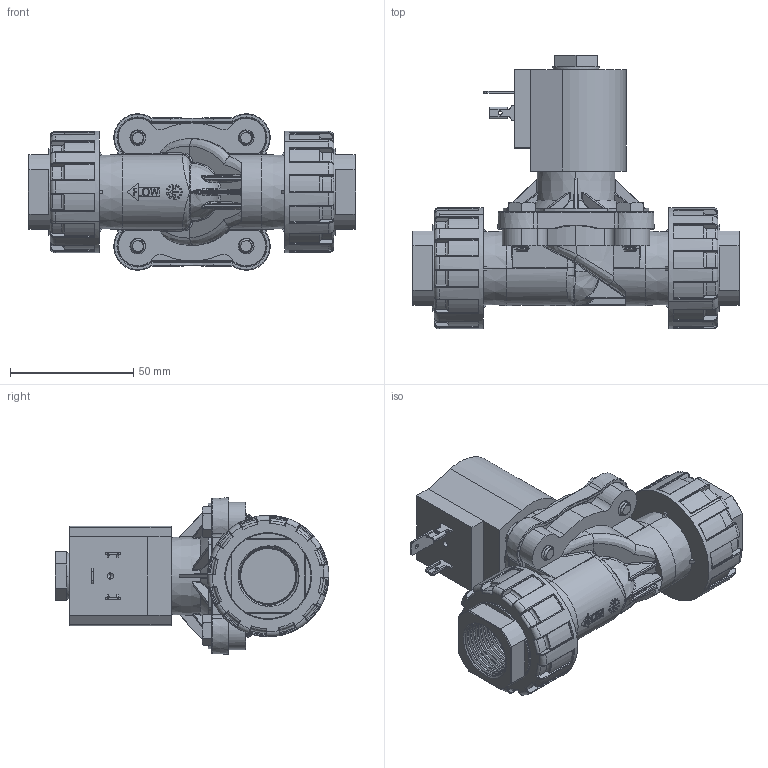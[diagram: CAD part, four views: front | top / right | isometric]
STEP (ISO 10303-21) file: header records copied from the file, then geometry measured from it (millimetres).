
FILE_DESCRIPTION (( 'STEP AP203' ), '1' );
FILE_NAME ('T201YxxxxPE2.STEP', '2024-05-06T15:50:16', ( '' ), ( '' ), 'SwSTEP 2.0', 'SolidWorks 2023', '' );
FILE_SCHEMA (( 'CONFIG_CONTROL_DESIGN' ));
Length unit declared in the file: millimetre
Products named in the file (1): T201YxxxxPE2
Bounding box: 133 x 111.12 x 63.5 mm (x, y, z)
Volume: 246443 mm3; surface area: 47836.7 mm2
Topology: 1 solids, 1 shells, 2610 faces, 6858 edges, 4205 vertices
Faces by surface type: bspline 932, plane 703, cylinder 427, torus 273, cone 193, sphere 82
Entity records: 124817 total; most frequent: CARTESIAN_POINT 68882, ORIENTED_EDGE 13484, DIRECTION 9081, EDGE_CURVE 6742, VERTEX_POINT 4201, AXIS2_PLACEMENT_3D 3347, EDGE_LOOP 2707, ADVANCED_FACE 2610
